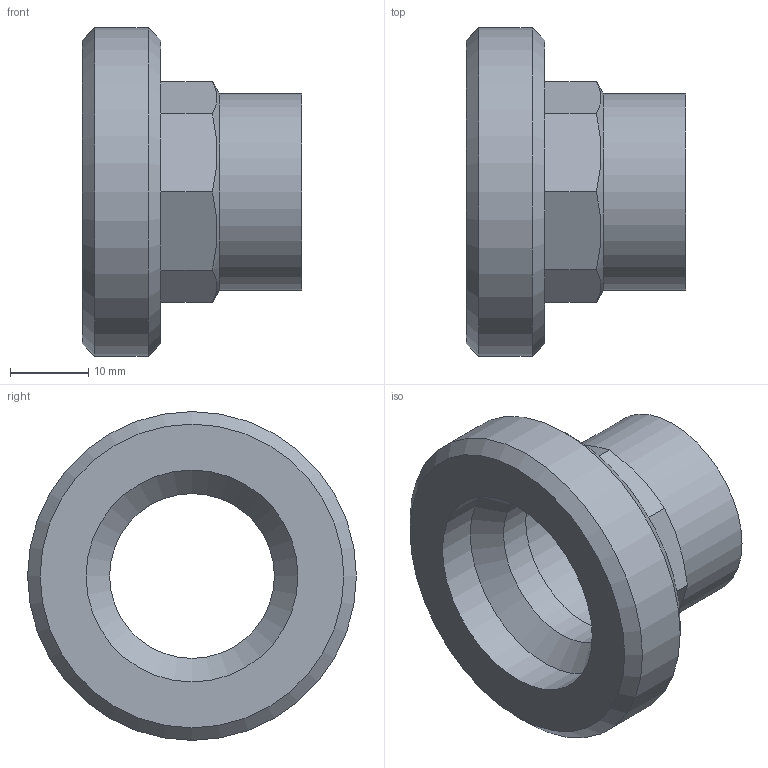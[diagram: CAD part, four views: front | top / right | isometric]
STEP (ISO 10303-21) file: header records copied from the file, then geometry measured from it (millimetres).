
FILE_DESCRIPTION(/* description */ (''),/* implementation_level */ '2;1');
FILE_NAME(/* name */ '\\LG50011\SANHA_Legnica\Engineering\Public\RYSUNKI\SANHA POLSKA\4370\inventor\14370_22-114(2).stp',/* time_stamp */ '2020-10-05T15:39:18+02:00',/* author */ ('gomulka'),/* organization */ (''),/* preprocessor_version */ 'ST-DEVELOPER v18',/* originating_system */ 'Autodesk Inventor 2020',/* authorisation */ '');
FILE_SCHEMA (('AUTOMOTIVE_DESIGN { 1 0 10303 214 3 1 1 }'));
Length unit declared in the file: millimetre
Products named in the file (1): 14370_22-114(2)
Bounding box: 28 x 41.91 x 41.91 mm (x, y, z)
Volume: 11107.4 mm3; surface area: 6455.7 mm2
Topology: 1 solids, 1 shells, 21 faces, 55 edges, 38 vertices
Faces by surface type: plane 12, cylinder 5, cone 4
Full cylindrical faces by diameter (mm): 21 x1, 22 x1, 25 x1, 27 x1, 41.91 x1
Entity records: 700 total; most frequent: CARTESIAN_POINT 131, DIRECTION 113, ORIENTED_EDGE 110, EDGE_CURVE 55, AXIS2_PLACEMENT_3D 44, VERTEX_POINT 38, EDGE_LOOP 25, LINE 25
